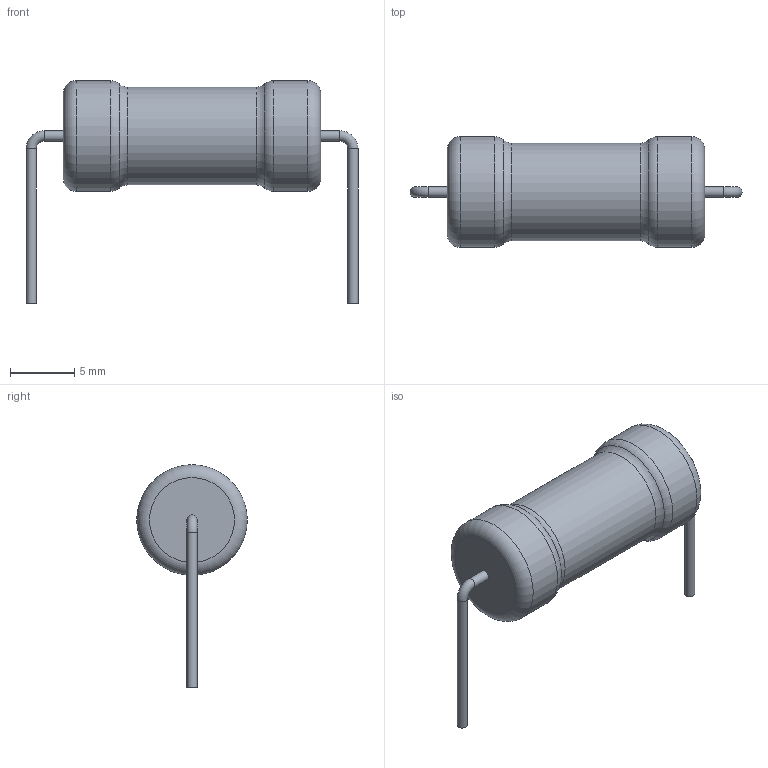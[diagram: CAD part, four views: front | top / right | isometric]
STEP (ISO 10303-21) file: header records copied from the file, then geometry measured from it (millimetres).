
FILE_DESCRIPTION(('STEP AP203'), '1');
FILE_NAME('R1-32-1M(1)', '', ('UNSPECIFIED'), ('UNSPECIFIED'), 'ASCON STEP Converter 1.6', 'ASCON Math Kernel', '');
FILE_SCHEMA(('CONFIG_CONTROL_DESIGN'));
Length unit declared in the file: millimetre
Bounding box: 25.8 x 8.6 x 17.3 mm (x, y, z)
Volume: 1021.6 mm3; surface area: 678.9 mm2
Topology: 1 solids, 1 shells, 19 faces, 33 edges, 18 vertices
Faces by surface type: torus 8, cylinder 7, plane 4
Full cylindrical faces by diameter (mm): 0.8 x4, 7.6 x1, 8.6 x2
Entity records: 570 total; most frequent: DIRECTION 76, CARTESIAN_POINT 56, AXIS2_PLACEMENT_3D 38, EDGE_LOOP 36, ORIENTED_EDGE 36, FACE_OUTER_BOUND 30, COLOUR_RGB 20, FILL_AREA_STYLE_COLOUR 20
